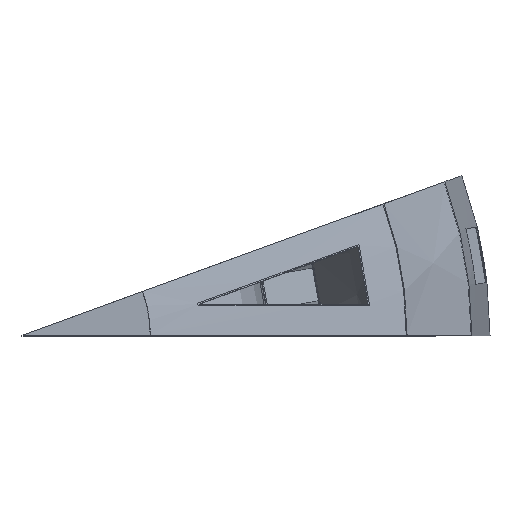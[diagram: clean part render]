
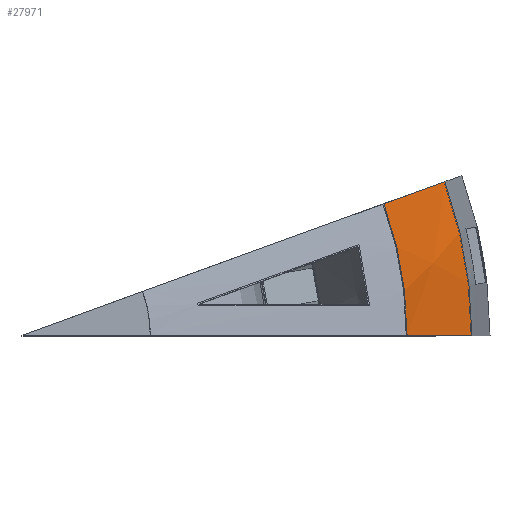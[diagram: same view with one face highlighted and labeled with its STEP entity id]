
A CAD part, top view. The second image highlights one B-rep face of the part: STEP entity #27971.
In plain terms, the highlighted conical face has half-angle 31.543 degrees and reference radius 17946.3 mm.
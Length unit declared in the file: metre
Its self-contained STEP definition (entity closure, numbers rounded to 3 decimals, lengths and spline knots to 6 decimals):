
#26966 = CONICAL_SURFACE('',#26967,15.24859,1.289);
#26967 = AXIS2_PLACEMENT_3D('',#26968,#26969,#26970);
#26968 = CARTESIAN_POINT('',(0.,0.,7.788141));
#26969 = DIRECTION('',(-0.,-0.,-1.));
#26970 = DIRECTION('',(1.,0.,-0.));
#26994 = PLANE('',#26995);
#26995 = AXIS2_PLACEMENT_3D('',#26996,#26997,#26998);
#26996 = CARTESIAN_POINT('',(6.877412,2.503173,
    -0.544344));
#26997 = DIRECTION('',(0.342,-0.94,-0.));
#26998 = DIRECTION('',(0.,0.,-1.));
#27020 = PLANE('',#27021);
#27021 = AXIS2_PLACEMENT_3D('',#27022,#27023,#27024);
#27022 = CARTESIAN_POINT('',(7.318789,0.,-0.544344));
#27023 = DIRECTION('',(-0.,-1.,-0.));
#27024 = DIRECTION('',(0.,0.,-1.));
#27035 = EDGE_CURVE('',#27036,#27038,#27040,.T.);
#27036 = VERTEX_POINT('',#27037);
#27037 = CARTESIAN_POINT('',(15.397191,0.,7.745069));
#27038 = VERTEX_POINT('',#27039);
#27039 = CARTESIAN_POINT('',(14.468627,5.26615,
    7.745069));
#27040 = SURFACE_CURVE('',#27041,(#27046,#27053),.PCURVE_S1.);
#27041 = CIRCLE('',#27042,15.397191);
#27042 = AXIS2_PLACEMENT_3D('',#27043,#27044,#27045);
#27043 = CARTESIAN_POINT('',(0.,0.,7.745069));
#27044 = DIRECTION('',(0.,0.,1.));
#27045 = DIRECTION('',(1.,0.,-0.));
#27046 = PCURVE('',#26966,#27047);
#27047 = DEFINITIONAL_REPRESENTATION('',(#27048),#27052);
#27048 = LINE('',#27049,#27050);
#27049 = CARTESIAN_POINT('',(0.,0.043));
#27050 = VECTOR('',#27051,1.);
#27051 = DIRECTION('',(-1.,-0.));
#27052 = ( GEOMETRIC_REPRESENTATION_CONTEXT(2) 
PARAMETRIC_REPRESENTATION_CONTEXT() REPRESENTATION_CONTEXT('2D SPACE',''
  ) );
#27053 = PCURVE('',#27054,#27059);
#27054 = CONICAL_SURFACE('',#27055,17.946307,0.551);
#27055 = AXIS2_PLACEMENT_3D('',#27056,#27057,#27058);
#27056 = CARTESIAN_POINT('',(0.,0.,3.592354));
#27057 = DIRECTION('',(-0.,-0.,-1.));
#27058 = DIRECTION('',(1.,0.,-0.));
#27059 = DEFINITIONAL_REPRESENTATION('',(#27060),#27064);
#27060 = LINE('',#27061,#27062);
#27061 = CARTESIAN_POINT('',(-0.,-4.153));
#27062 = VECTOR('',#27063,1.);
#27063 = DIRECTION('',(-1.,-0.));
#27064 = ( GEOMETRIC_REPRESENTATION_CONTEXT(2) 
PARAMETRIC_REPRESENTATION_CONTEXT() REPRESENTATION_CONTEXT('2D SPACE',''
  ) );
#27598 = VERTEX_POINT('',#27599);
#27599 = CARTESIAN_POINT('',(17.99008,0.,3.521043));
#27613 = CONICAL_SURFACE('',#27614,18.70966,0.138);
#27614 = AXIS2_PLACEMENT_3D('',#27615,#27616,#27617);
#27615 = CARTESIAN_POINT('',(0.,0.,-1.655865));
#27616 = DIRECTION('',(-0.,-0.,-1.));
#27617 = DIRECTION('',(1.,0.,-0.));
#27625 = EDGE_CURVE('',#27598,#27036,#27626,.T.);
#27626 = SURFACE_CURVE('',#27627,(#27631,#27638),.PCURVE_S1.);
#27627 = LINE('',#27628,#27629);
#27628 = CARTESIAN_POINT('',(17.946307,0.,3.592354));
#27629 = VECTOR('',#27630,1.);
#27630 = DIRECTION('',(-0.523,0.,0.852));
#27631 = PCURVE('',#27020,#27632);
#27632 = DEFINITIONAL_REPRESENTATION('',(#27633),#27637);
#27633 = LINE('',#27634,#27635);
#27634 = CARTESIAN_POINT('',(-4.137,10.628));
#27635 = VECTOR('',#27636,1.);
#27636 = DIRECTION('',(-0.852,-0.523));
#27637 = ( GEOMETRIC_REPRESENTATION_CONTEXT(2) 
PARAMETRIC_REPRESENTATION_CONTEXT() REPRESENTATION_CONTEXT('2D SPACE',''
  ) );
#27638 = PCURVE('',#27054,#27639);
#27639 = DEFINITIONAL_REPRESENTATION('',(#27640),#27644);
#27640 = LINE('',#27641,#27642);
#27641 = CARTESIAN_POINT('',(-0.,-0.));
#27642 = VECTOR('',#27643,1.);
#27643 = DIRECTION('',(-0.,-1.));
#27644 = ( GEOMETRIC_REPRESENTATION_CONTEXT(2) 
PARAMETRIC_REPRESENTATION_CONTEXT() REPRESENTATION_CONTEXT('2D SPACE',''
  ) );
#27928 = VERTEX_POINT('',#27929);
#27929 = CARTESIAN_POINT('',(16.905146,6.15297,3.521043)
  );
#27950 = EDGE_CURVE('',#27928,#27038,#27951,.T.);
#27951 = SURFACE_CURVE('',#27952,(#27956,#27963),.PCURVE_S1.);
#27952 = LINE('',#27953,#27954);
#27953 = CARTESIAN_POINT('',(16.864012,6.137998,
    3.592354));
#27954 = VECTOR('',#27955,1.);
#27955 = DIRECTION('',(-0.492,-0.179,0.852));
#27956 = PCURVE('',#26994,#27957);
#27957 = DEFINITIONAL_REPRESENTATION('',(#27958),#27962);
#27958 = LINE('',#27959,#27960);
#27959 = CARTESIAN_POINT('',(-4.137,10.628));
#27960 = VECTOR('',#27961,1.);
#27961 = DIRECTION('',(-0.852,-0.523));
#27962 = ( GEOMETRIC_REPRESENTATION_CONTEXT(2) 
PARAMETRIC_REPRESENTATION_CONTEXT() REPRESENTATION_CONTEXT('2D SPACE',''
  ) );
#27963 = PCURVE('',#27054,#27964);
#27964 = DEFINITIONAL_REPRESENTATION('',(#27965),#27969);
#27965 = LINE('',#27966,#27967);
#27966 = CARTESIAN_POINT('',(-0.349,-0.));
#27967 = VECTOR('',#27968,1.);
#27968 = DIRECTION('',(-0.,-1.));
#27969 = ( GEOMETRIC_REPRESENTATION_CONTEXT(2) 
PARAMETRIC_REPRESENTATION_CONTEXT() REPRESENTATION_CONTEXT('2D SPACE',''
  ) );
#27971 = ADVANCED_FACE('',(#27972),#27054,.T.);
#27972 = FACE_BOUND('',#27973,.T.);
#27973 = EDGE_LOOP('',(#27974,#27996,#27997,#27998));
#27974 = ORIENTED_EDGE('',*,*,#27975,.T.);
#27975 = EDGE_CURVE('',#27598,#27928,#27976,.T.);
#27976 = SURFACE_CURVE('',#27977,(#27982,#27989),.PCURVE_S1.);
#27977 = CIRCLE('',#27978,17.99008);
#27978 = AXIS2_PLACEMENT_3D('',#27979,#27980,#27981);
#27979 = CARTESIAN_POINT('',(0.,0.,3.521043));
#27980 = DIRECTION('',(0.,0.,1.));
#27981 = DIRECTION('',(1.,0.,-0.));
#27982 = PCURVE('',#27054,#27983);
#27983 = DEFINITIONAL_REPRESENTATION('',(#27984),#27988);
#27984 = LINE('',#27985,#27986);
#27985 = CARTESIAN_POINT('',(0.,0.071));
#27986 = VECTOR('',#27987,1.);
#27987 = DIRECTION('',(-1.,-0.));
#27988 = ( GEOMETRIC_REPRESENTATION_CONTEXT(2) 
PARAMETRIC_REPRESENTATION_CONTEXT() REPRESENTATION_CONTEXT('2D SPACE',''
  ) );
#27989 = PCURVE('',#27613,#27990);
#27990 = DEFINITIONAL_REPRESENTATION('',(#27991),#27995);
#27991 = LINE('',#27992,#27993);
#27992 = CARTESIAN_POINT('',(-0.,-5.177));
#27993 = VECTOR('',#27994,1.);
#27994 = DIRECTION('',(-1.,-0.));
#27995 = ( GEOMETRIC_REPRESENTATION_CONTEXT(2) 
PARAMETRIC_REPRESENTATION_CONTEXT() REPRESENTATION_CONTEXT('2D SPACE',''
  ) );
#27996 = ORIENTED_EDGE('',*,*,#27950,.T.);
#27997 = ORIENTED_EDGE('',*,*,#27035,.F.);
#27998 = ORIENTED_EDGE('',*,*,#27625,.F.);
